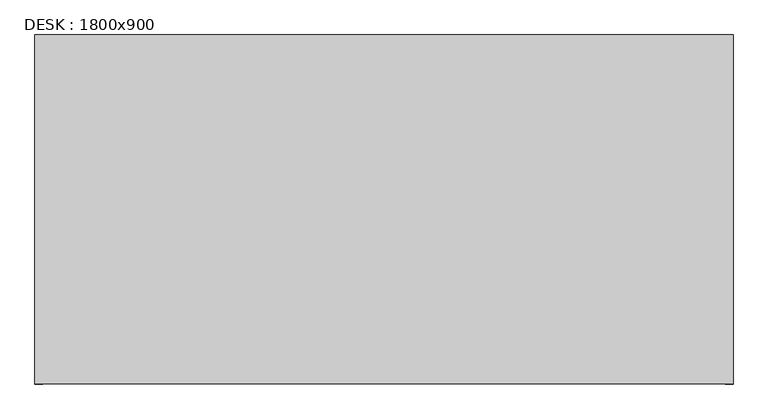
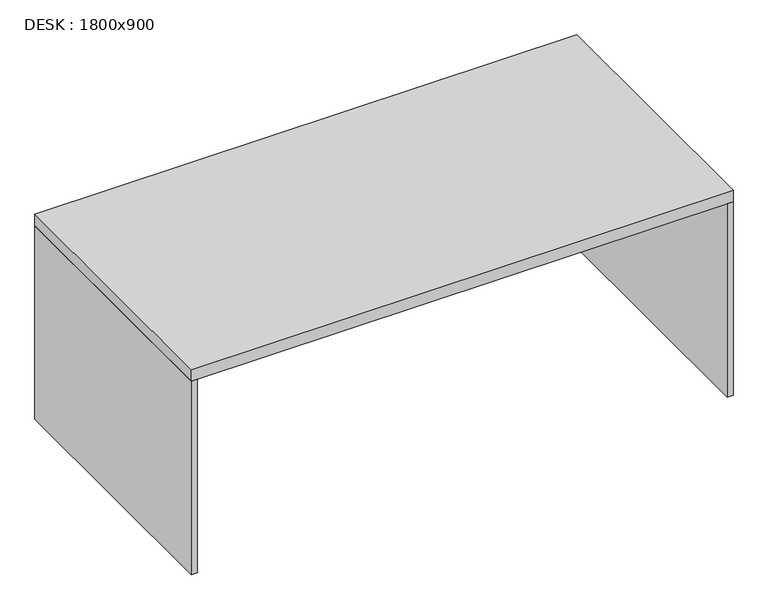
"""IFC4 building model written with IfcOpenShell, lengths in millimetres: furniture geometry, DESK : 1800x900."""

from ifc_helpers import new_model, si_unit, frame, origin, origin_with_axes, place, context, project, spatial, polyline, outline, extrude, source, transform, mapped, element, save


def desk_1800x900_c6e2f9b9(model_context):
    return source(origin(), model_context, "Body", "SweptSolid", [
        extrude(outline(polyline([(-800.0, -300.0), (-800.0, 600.0), (1000.0, 600.0), (1000.0, -300.0), (-800.0, -300.0)])), frame((0.0, 0.0, 680.0), z_axis=(0.0, 0.0, 1.0), x_axis=(1.0, 0.0, 0.0)), (0.0, 0.0, 1.0), 40.0),
        extrude(outline(polyline([(-780.0, 600.0), (-780.0, -300.0), (-800.0, -300.0), (-800.0, 600.0), (-780.0, 600.0)])), origin_with_axes(), (0.0, 0.0, 1.0), 680.0),
        extrude(outline(polyline([(980.0, 600.0), (1000.0, 600.0), (1000.0, -300.0), (980.0, -300.0), (980.0, 600.0)])), origin_with_axes(), (0.0, 0.0, 1.0), 680.0),
    ])


if __name__ == "__main__":
    model = new_model("IFC4")
    model_context = context("Model", 3, world=origin())
    ifc_project = project(units=[si_unit("LENGTHUNIT", "METRE", prefix="MILLI")], contexts=[model_context])
    site = spatial("IfcSite", under=ifc_project)
    building = spatial("IfcBuilding", under=site)
    placement = place(None, origin())
    desk_1800x900_shape = desk_1800x900_c6e2f9b9(model_context)
    element("IfcFurniture", 1, ObjectType="DESK : 1800x900", at=placement, inside=building, context=model_context, shape_type="MappedRepresentation", body=[
        mapped(desk_1800x900_shape, transform((0.0, 0.0, 0.0), x_axis=(1.0, 0.0, 0.0), y_axis=(0.0, 1.0, 0.0), z_axis=(0.0, 0.0, 1.0))),
    ])
    save(model, "model.ifc")
